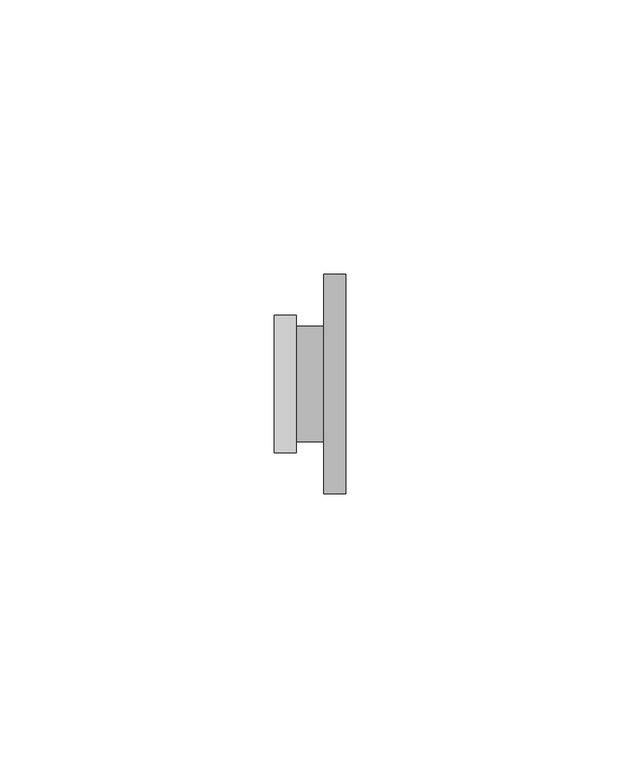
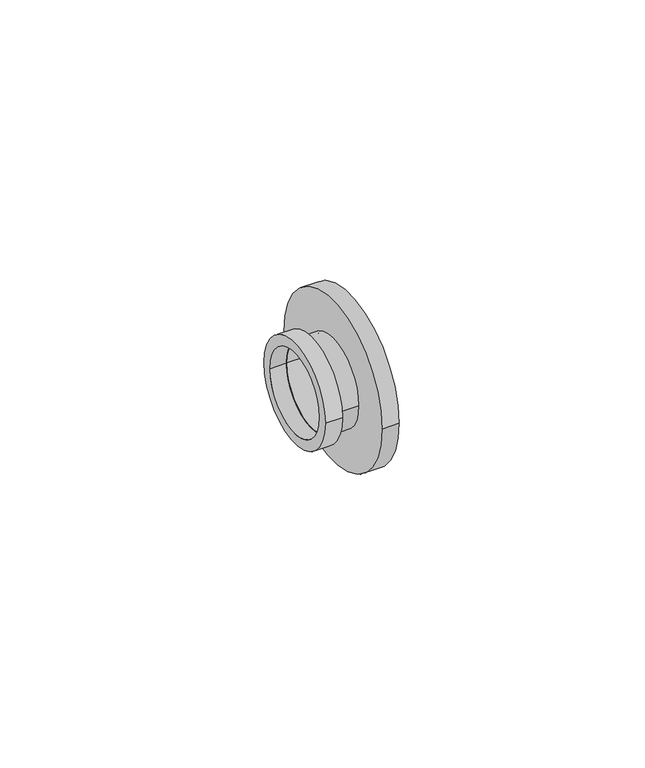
"""IFC4 building model written with IfcOpenShell, lengths in millimetres: pipe fitting geometry, БИР ПЕКС_НПР_Соединитель_Резьба_Внутренняя : Соединитель прямой с внутренней резьбой."""

from ifc_helpers import new_model, si_unit, point, frame, origin, origin_2d, place, context, project, spatial, circle_curve, trimmed, segment, composite_curve, outline, extrude, source, transform, mapped, element, save


def pipe_fitting_74430912(model_context):
    return source(origin(), model_context, "Body", "SweptSolid", [
        extrude(outline(composite_curve([segment(trimmed(circle_curve(origin_2d(), 10.5), [point((-10.5, 0.0))], [point((10.5, 0.0))], False, "CARTESIAN"), True, "CONTINUOUS"), segment(trimmed(circle_curve(origin_2d(), 10.5), [point((10.5, 0.0))], [point((-10.5, 0.0))], False, "CARTESIAN"), True, "CONTINUOUS")], self_intersect=False), holes=[composite_curve([segment(trimmed(circle_curve(origin_2d(), 10.0), [point((-10.0, 0.0))], [point((10.0, 0.0))], True, "CARTESIAN"), True, "CONTINUOUS"), segment(trimmed(circle_curve(origin_2d(), 10.0), [point((10.0, 0.0))], [point((-10.0, 0.0))], True, "CARTESIAN"), True, "CONTINUOUS")], self_intersect=False)]), frame((-2.5, 0.0, 0.0), z_axis=(1.0, 0.0, 0.0), x_axis=(0.0, 1.0, 0.0)), (0.0, 0.0, 1.0), 5.0),
        extrude(outline(composite_curve([segment(trimmed(circle_curve(origin_2d(), 20.0), [point((-20.0, 0.0))], [point((20.0, 0.0))], False, "CARTESIAN"), True, "CONTINUOUS"), segment(trimmed(circle_curve(origin_2d(), 20.0), [point((20.0, 0.0))], [point((-20.0, 0.0))], False, "CARTESIAN"), True, "CONTINUOUS")], self_intersect=False), holes=[composite_curve([segment(trimmed(circle_curve(origin_2d(), 10.0), [point((-10.0, 0.0))], [point((10.0, 0.0))], True, "CARTESIAN"), True, "CONTINUOUS"), segment(trimmed(circle_curve(origin_2d(), 10.0), [point((10.0, 0.0))], [point((-10.0, 0.0))], True, "CARTESIAN"), True, "CONTINUOUS")], self_intersect=False)]), frame((2.5, 0.0, 0.0), z_axis=(1.0, 0.0, 0.0), x_axis=(0.0, 1.0, 0.0)), (0.0, 0.0, 1.0), 4.0),
        extrude(outline(composite_curve([segment(trimmed(circle_curve(origin_2d(), 12.5), [point((-12.5, 0.0))], [point((12.5, 0.0))], False, "CARTESIAN"), True, "CONTINUOUS"), segment(trimmed(circle_curve(origin_2d(), 12.5), [point((12.5, 0.0))], [point((-12.5, 0.0))], False, "CARTESIAN"), True, "CONTINUOUS")], self_intersect=False), holes=[composite_curve([segment(trimmed(circle_curve(origin_2d(), 10.0), [point((-10.0, 0.0))], [point((10.0, 0.0))], True, "CARTESIAN"), True, "CONTINUOUS"), segment(trimmed(circle_curve(origin_2d(), 10.0), [point((10.0, 0.0))], [point((-10.0, 0.0))], True, "CARTESIAN"), True, "CONTINUOUS")], self_intersect=False)]), frame((-6.5, 0.0, 0.0), z_axis=(1.0, 0.0, 0.0), x_axis=(0.0, 1.0, 0.0)), (0.0, 0.0, 1.0), 4.0),
    ])


if __name__ == "__main__":
    model = new_model("IFC4")
    model_context = context("Model", 3, world=origin())
    ifc_project = project(units=[si_unit("LENGTHUNIT", "METRE", prefix="MILLI")], contexts=[model_context])
    site = spatial("IfcSite", under=ifc_project)
    building = spatial("IfcBuilding", under=site)
    placement = place(None, origin())
    pipe_fitting_shape = pipe_fitting_74430912(model_context)
    element("IfcPipeFitting", 1, ObjectType="БИР ПЕКС_НПР_Соединитель_Резьба_Внутренняя : Соединитель прямой с внутренней резьбой", at=placement, inside=building, context=model_context, shape_type="MappedRepresentation", body=[
        mapped(pipe_fitting_shape, transform((0.0, 0.0, 0.0), x_axis=(1.0, 0.0, 0.0), y_axis=(0.0, 1.0, 0.0), z_axis=(0.0, 0.0, 1.0))),
    ])
    save(model, "model.ifc")
